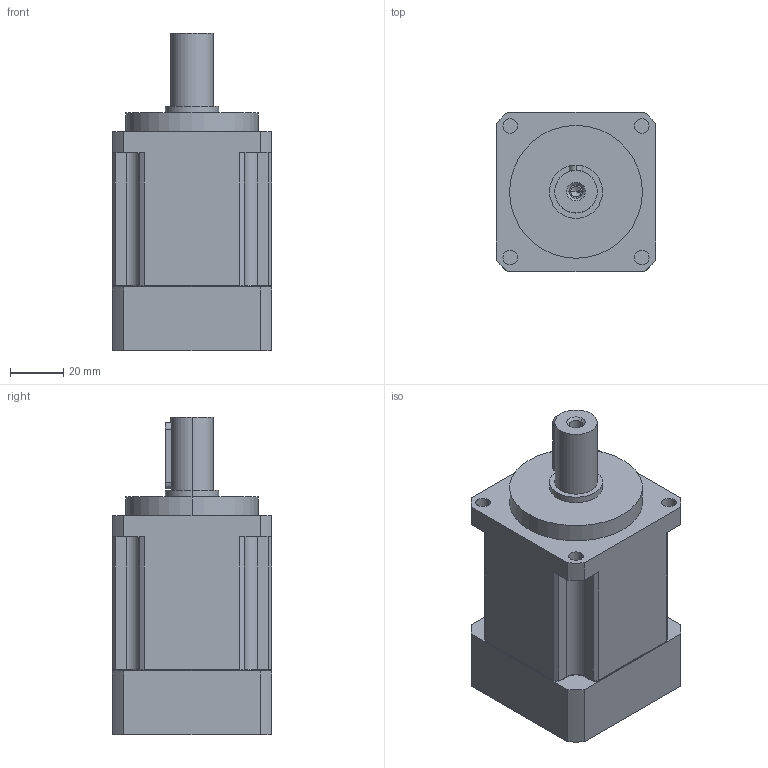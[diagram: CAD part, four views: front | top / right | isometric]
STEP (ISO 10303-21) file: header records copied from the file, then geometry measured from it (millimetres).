
FILE_DESCRIPTION (( 'STEP AP203' ), '1' );
FILE_NAME ('IB60L1.STEP', '2015-12-07T06:54:04', ( 'User' ), ( 'china' ), 'SwSTEP 2.0', 'SolidWorks 2015', '' );
FILE_SCHEMA (( 'CONFIG_CONTROL_DESIGN' ));
Length unit declared in the file: millimetre
Products named in the file (1): IB60L1
Bounding box: 60 x 60 x 119.5 mm (x, y, z)
Volume: 279742.1 mm3; surface area: 32824.8 mm2
Topology: 1 solids, 1 shells, 133 faces, 321 edges, 197 vertices
Faces by surface type: cylinder 73, plane 36, cone 12, torus 12
Entity records: 4016 total; most frequent: CARTESIAN_POINT 785, DIRECTION 701, ORIENTED_EDGE 622, EDGE_CURVE 311, AXIS2_PLACEMENT_3D 275, VERTEX_POINT 197, EDGE_LOOP 158, VECTOR 151
